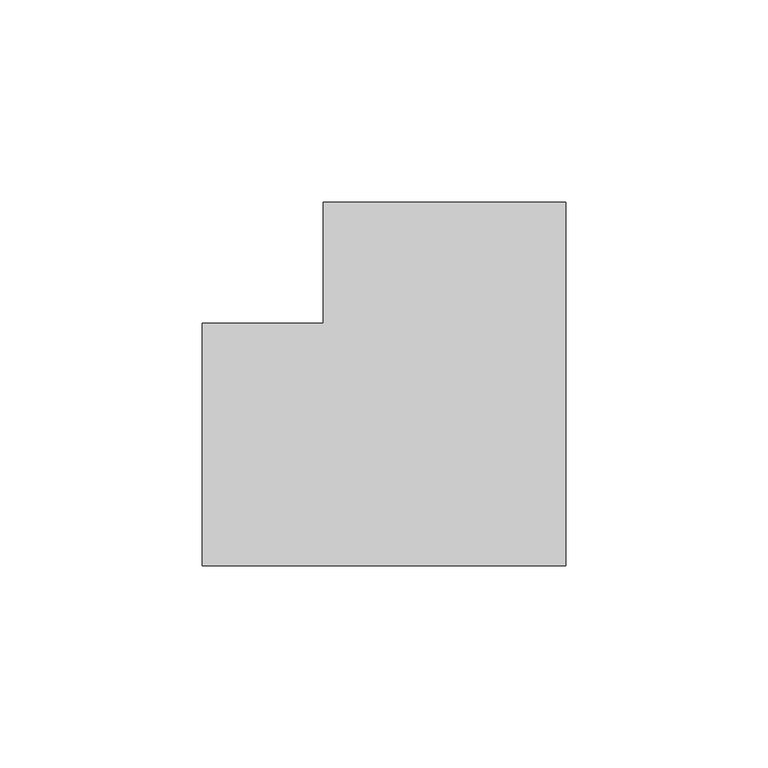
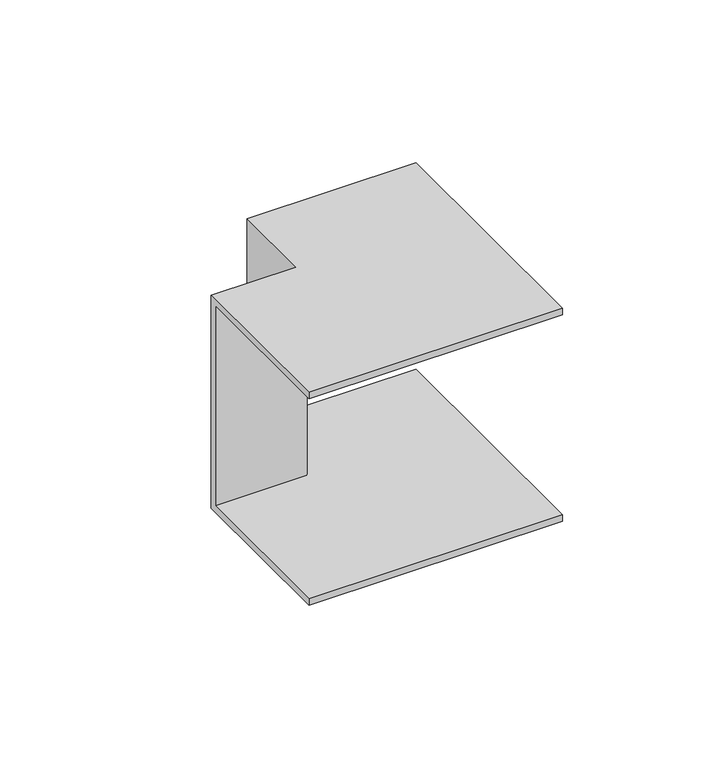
"""IFC4 building model written with IfcOpenShell, lengths in millimetres: cable carrier fitting geometry, КНС_УголВнешний_ILC_DKC : Угол внешний_DKC."""

from ifc_helpers import new_model, si_unit, origin, place, context, project, spatial, faceted_brep, source, transform, mapped, element, save


def cable_carrier_fitting_b617fa5a(model_context):
    return source(origin(), model_context, "Body", "Brep", [
        faceted_brep([(-60.0, 30.0, 40.0), (-60.0, 30.0, -40.0), (-60.0, -30.0, -40.0), (-60.0, -30.0, -37.5), (-60.0, 27.5, -37.5), (-60.0, 27.5, 37.5), (-60.0, -30.0, 37.5), (-60.0, -30.0, 40.0), (-30.0, 60.0, 40.0), (30.0, 60.0, 40.0), (30.0, 60.0, 37.5), (-27.5, 60.0, 37.5), (-27.5, 60.0, -37.5), (30.0, 60.0, -37.5), (30.0, 60.0, -40.0), (-30.0, 60.0, -40.0), (-30.0, 30.0, 40.0), (-30.0, 30.0, -40.0), (30.0, -30.0, -40.0), (30.0, -30.0, -37.5), (-27.5, 27.5, -37.5), (-27.5, 27.5, 37.5), (30.0, -30.0, 37.5), (30.0, -30.0, 40.0)], [[[0, 1, 2, 3, 4, 5, 6, 7]], [[8, 9, 10, 11, 12, 13, 14, 15]], [[1, 0, 16, 17]], [[2, 1, 17, 15, 14, 18]], [[3, 2, 18, 19]], [[4, 3, 19, 13, 12, 20]], [[5, 4, 20, 21]], [[6, 5, 21, 11, 10, 22]], [[7, 6, 22, 23]], [[0, 7, 23, 9, 8, 16]], [[17, 16, 8, 15]], [[19, 18, 14, 13]], [[21, 20, 12, 11]], [[23, 22, 10, 9]]]),
    ])


if __name__ == "__main__":
    model = new_model("IFC4")
    model_context = context("Model", 3, world=origin())
    ifc_project = project(units=[si_unit("LENGTHUNIT", "METRE", prefix="MILLI")], contexts=[model_context])
    site = spatial("IfcSite", under=ifc_project)
    building = spatial("IfcBuilding", under=site)
    placement = place(None, origin())
    cable_carrier_fitting_shape = cable_carrier_fitting_b617fa5a(model_context)
    element("IfcCableCarrierFitting", 1, ObjectType="КНС_УголВнешний_ILC_DKC : Угол внешний_DKC", at=placement, inside=building, context=model_context, shape_type="MappedRepresentation", body=[
        mapped(cable_carrier_fitting_shape, transform((0.0, 0.0, 0.0), x_axis=(1.0, 0.0, 0.0), y_axis=(0.0, 1.0, 0.0), z_axis=(0.0, 0.0, 1.0))),
    ])
    save(model, "model.ifc")
